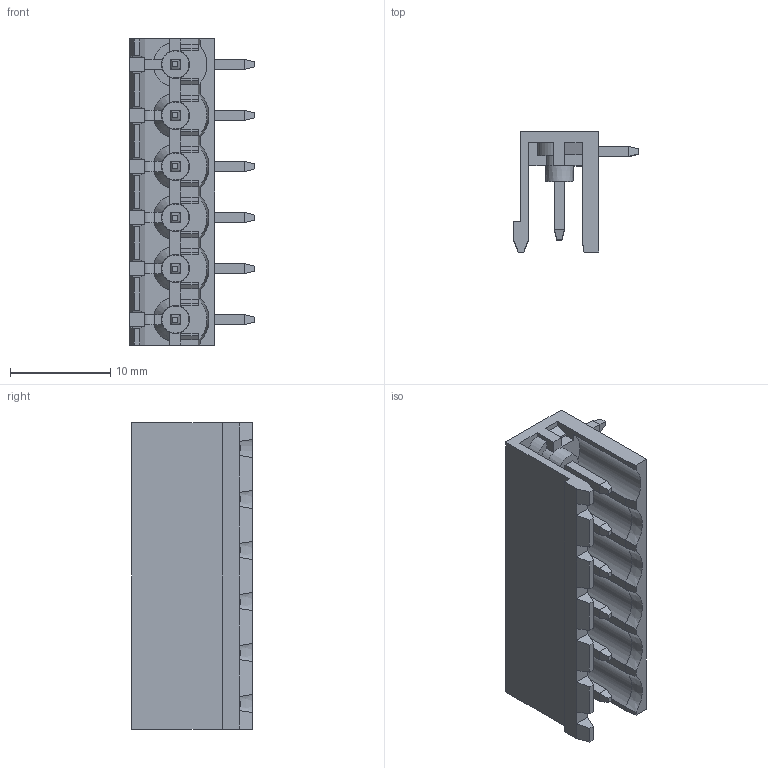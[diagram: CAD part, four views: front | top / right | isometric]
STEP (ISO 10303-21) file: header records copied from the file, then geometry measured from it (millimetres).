
FILE_DESCRIPTION (( 'STEP AP203' ), '1' );
FILE_NAME ('BR8MN1-06.STEP', '2020-03-18T03:22:21', ( '' ), ( '' ), 'SwSTEP 2.0', 'SolidWorks 2019', '' );
FILE_SCHEMA (( 'CONFIG_CONTROL_DESIGN' ));
Length unit declared in the file: millimetre
Products named in the file (1): BR8MN1-06
Bounding box: 12.5 x 12 x 30.48 mm (x, y, z)
Volume: 1166.3 mm3; surface area: 2646.9 mm2
Topology: 1 solids, 1 shells, 517 faces, 1350 edges, 835 vertices
Faces by surface type: plane 447, cylinder 31, cone 27, sphere 12
Entity records: 15428 total; most frequent: CARTESIAN_POINT 2914, ORIENTED_EDGE 2652, DIRECTION 2429, EDGE_CURVE 1326, VECTOR 1141, LINE 1141, VERTEX_POINT 823, AXIS2_PLACEMENT_3D 644
